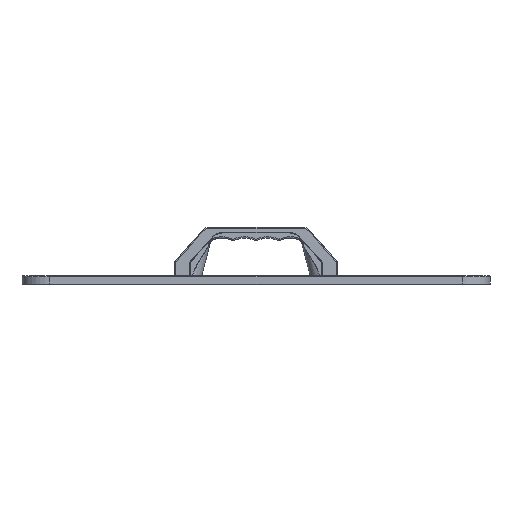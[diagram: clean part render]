
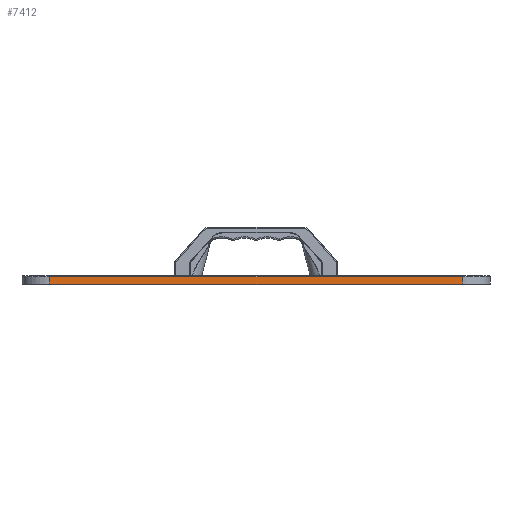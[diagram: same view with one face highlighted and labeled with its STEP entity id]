
A CAD part, left-side view. The second image highlights one B-rep face of the part: STEP entity #7412.
In plain terms, the highlighted planar face has unit normal (-1, 0, 0).
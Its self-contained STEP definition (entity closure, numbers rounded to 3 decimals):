
#5092=PLANE('',#32305);
#7412=ADVANCED_FACE('',(#9400),#5092,.T.);
#9400=FACE_OUTER_BOUND('',#11226,.T.);
#11226=EDGE_LOOP('',(#17784,#17785,#17786,#17787));
#17784=ORIENTED_EDGE('',*,*,#26752,.F.);
#17785=ORIENTED_EDGE('',*,*,#26754,.T.);
#17786=ORIENTED_EDGE('',*,*,#26755,.T.);
#17787=ORIENTED_EDGE('',*,*,#26756,.T.);
#23609=VERTEX_POINT('',#53655);
#23610=VERTEX_POINT('',#53657);
#23611=VERTEX_POINT('',#53661);
#23612=VERTEX_POINT('',#53663);
#26752=EDGE_CURVE('',#23609,#23610,#28988,.T.);
#26754=EDGE_CURVE('',#23609,#23611,#28989,.T.);
#26755=EDGE_CURVE('',#23611,#23612,#28990,.T.);
#26756=EDGE_CURVE('',#23612,#23610,#28991,.T.);
#28988=LINE('',#53656,#30266);
#28989=LINE('',#53660,#30267);
#28990=LINE('',#53662,#30268);
#28991=LINE('',#53664,#30269);
#30266=VECTOR('',#36480,1.);
#30267=VECTOR('',#36485,1.);
#30268=VECTOR('',#36486,1.);
#30269=VECTOR('',#36487,1.);
#32305=AXIS2_PLACEMENT_3D('',#53665,#36488,#36489);
#36480=DIRECTION('',(0.,0.,1.));
#36485=DIRECTION('',(0.,-1.,0.));
#36486=DIRECTION('',(0.,0.,1.));
#36487=DIRECTION('',(0.,1.,0.));
#36488=DIRECTION('',(-1.,0.,0.));
#36489=DIRECTION('',(0.,0.,-1.));
#53655=CARTESIAN_POINT('',(-255.,225.,-9.));
#53656=CARTESIAN_POINT('',(-255.,225.,-10.));
#53657=CARTESIAN_POINT('',(-255.,225.,-1.));
#53660=CARTESIAN_POINT('',(-255.,-225.,-9.));
#53661=CARTESIAN_POINT('',(-255.,-225.,-9.));
#53662=CARTESIAN_POINT('',(-255.,-225.,-10.));
#53663=CARTESIAN_POINT('',(-255.,-225.,-1.));
#53664=CARTESIAN_POINT('',(-255.,225.,-1.));
#53665=CARTESIAN_POINT('',(-255.,225.,-10.));
